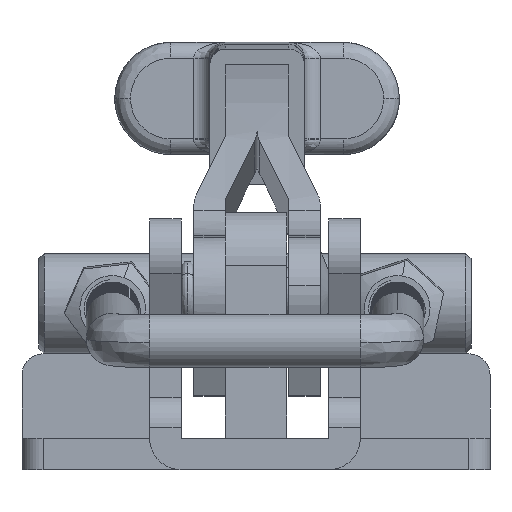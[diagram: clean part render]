
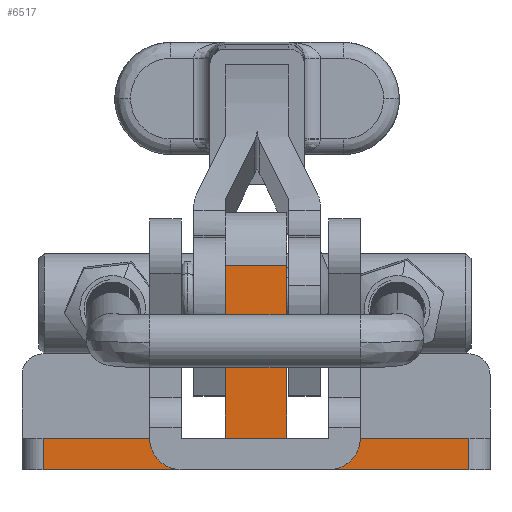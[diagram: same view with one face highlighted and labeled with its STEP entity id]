
A CAD part, left-side view. The second image highlights one B-rep face of the part: STEP entity #6517.
In plain terms, the highlighted planar face has unit normal (-1, 0, 0).
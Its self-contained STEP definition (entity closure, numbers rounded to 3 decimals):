
#94 = CARTESIAN_POINT ( 'NONE',  ( 0., 19.2, 3. ) ) ;
#253 = DIRECTION ( 'NONE',  ( 1., 0., 0. ) ) ;
#267 = VERTEX_POINT ( 'NONE', #3342 ) ;
#714 = CARTESIAN_POINT ( 'NONE',  ( 0., 25.1, 19.4 ) ) ;
#791 = CARTESIAN_POINT ( 'NONE',  ( 0., 2., 3. ) ) ;
#973 = CARTESIAN_POINT ( 'NONE',  ( 0., 42.4, 0. ) ) ;
#985 = DIRECTION ( 'NONE',  ( 0., 0., 1. ) ) ;
#1416 = CARTESIAN_POINT ( 'NONE',  ( 0., 2., 3. ) ) ;
#1474 = LINE ( 'NONE', #2539, #18051 ) ;
#1677 = LINE ( 'NONE', #6816, #21870 ) ;
#1705 = VERTEX_POINT ( 'NONE', #21519 ) ;
#1770 = CIRCLE ( 'NONE', #20628, 3. ) ;
#2526 = ORIENTED_EDGE ( 'NONE', *, *, #15881, .T. ) ;
#2539 = CARTESIAN_POINT ( 'NONE',  ( 0., 2., 19.4 ) ) ;
#2745 = LINE ( 'NONE', #1416, #22307 ) ;
#3236 = DIRECTION ( 'NONE',  ( 0., -1., 0. ) ) ;
#3252 = VERTEX_POINT ( 'NONE', #973 ) ;
#3342 = CARTESIAN_POINT ( 'NONE',  ( 0., 25.1, 3. ) ) ;
#3390 = VECTOR ( 'NONE', #16878, 1000. ) ;
#3449 = DIRECTION ( 'NONE',  ( 0., 0., 1. ) ) ;
#3921 = LINE ( 'NONE', #791, #13086 ) ;
#4072 = PLANE ( 'NONE',  #7028 ) ;
#4345 = ORIENTED_EDGE ( 'NONE', *, *, #9215, .F. ) ;
#4673 = ORIENTED_EDGE ( 'NONE', *, *, #23582, .F. ) ;
#5480 = ORIENTED_EDGE ( 'NONE', *, *, #21416, .F. ) ;
#5764 = ORIENTED_EDGE ( 'NONE', *, *, #10958, .F. ) ;
#6338 = FACE_OUTER_BOUND ( 'NONE', #16927, .T. ) ;
#6451 = DIRECTION ( 'NONE',  ( 0., -1., 0. ) ) ;
#6469 = EDGE_CURVE ( 'NONE', #19874, #15663, #1770, .T. ) ;
#6517 = ADVANCED_FACE ( 'NONE', ( #6338 ), #4072, .F. ) ;
#6816 = CARTESIAN_POINT ( 'NONE',  ( 0., 28., 3. ) ) ;
#6872 = ORIENTED_EDGE ( 'NONE', *, *, #14760, .F. ) ;
#7028 = AXIS2_PLACEMENT_3D ( 'NONE', #9843, #10017, #19697 ) ;
#7161 = EDGE_CURVE ( 'NONE', #22333, #11331, #3921, .T. ) ;
#7281 = CARTESIAN_POINT ( 'NONE',  ( 0., 19.2, 0. ) ) ;
#7449 = CARTESIAN_POINT ( 'NONE',  ( 0., 42.4, 3. ) ) ;
#7548 = CARTESIAN_POINT ( 'NONE',  ( 0., 25.2, 3. ) ) ;
#7638 = CARTESIAN_POINT ( 'NONE',  ( 0., 19.3, 3. ) ) ;
#7730 = LINE ( 'NONE', #11150, #16028 ) ;
#8372 = DIRECTION ( 'NONE',  ( 0., 0., -1. ) ) ;
#8804 = VERTEX_POINT ( 'NONE', #7449 ) ;
#9046 = CARTESIAN_POINT ( 'NONE',  ( 0., 28., 0. ) ) ;
#9181 = ORIENTED_EDGE ( 'NONE', *, *, #6469, .F. ) ;
#9215 = EDGE_CURVE ( 'NONE', #8804, #267, #1677, .T. ) ;
#9594 = DIRECTION ( 'NONE',  ( 0., 0., -1. ) ) ;
#9780 = LINE ( 'NONE', #9046, #3390 ) ;
#9843 = CARTESIAN_POINT ( 'NONE',  ( 0., 2., 3. ) ) ;
#10017 = DIRECTION ( 'NONE',  ( 1., 0., 0. ) ) ;
#10958 = EDGE_CURVE ( 'NONE', #3252, #8804, #7730, .T. ) ;
#11150 = CARTESIAN_POINT ( 'NONE',  ( 0., 42.4, 3. ) ) ;
#11331 = VERTEX_POINT ( 'NONE', #13934 ) ;
#11899 = VECTOR ( 'NONE', #6451, 1000. ) ;
#11945 = CARTESIAN_POINT ( 'NONE',  ( 0., 2., 3. ) ) ;
#11959 = CARTESIAN_POINT ( 'NONE',  ( 0., 19.3, 3. ) ) ;
#12360 = CARTESIAN_POINT ( 'NONE',  ( 0., 16.4, 0. ) ) ;
#12528 = CARTESIAN_POINT ( 'NONE',  ( 0., 25.1, 3. ) ) ;
#12727 = EDGE_CURVE ( 'NONE', #267, #16650, #22698, .T. ) ;
#13086 = VECTOR ( 'NONE', #8372, 1000. ) ;
#13676 = ORIENTED_EDGE ( 'NONE', *, *, #19027, .F. ) ;
#13774 = CARTESIAN_POINT ( 'NONE',  ( 0., 25.2, 0. ) ) ;
#13862 = CARTESIAN_POINT ( 'NONE',  ( 0., 22.2, 3. ) ) ;
#13934 = CARTESIAN_POINT ( 'NONE',  ( 0., 2., 0. ) ) ;
#14487 = EDGE_CURVE ( 'NONE', #3252, #15663, #9780, .T. ) ;
#14645 = VERTEX_POINT ( 'NONE', #11959 ) ;
#14760 = EDGE_CURVE ( 'NONE', #14645, #22333, #2745, .T. ) ;
#15663 = VERTEX_POINT ( 'NONE', #13774 ) ;
#15881 = EDGE_CURVE ( 'NONE', #22778, #11331, #18356, .T. ) ;
#16016 = ORIENTED_EDGE ( 'NONE', *, *, #7161, .F. ) ;
#16028 = VECTOR ( 'NONE', #3449, 1000. ) ;
#16133 = ORIENTED_EDGE ( 'NONE', *, *, #14487, .T. ) ;
#16380 = VECTOR ( 'NONE', #9594, 1000. ) ;
#16422 = DIRECTION ( 'NONE',  ( 0., -1., 0. ) ) ;
#16650 = VERTEX_POINT ( 'NONE', #714 ) ;
#16878 = DIRECTION ( 'NONE',  ( 0., -1., 0. ) ) ;
#16927 = EDGE_LOOP ( 'NONE', ( #4673, #22722, #4345, #5764, #16133, #9181, #5480, #2526, #16016, #6872, #13676 ) ) ;
#18051 = VECTOR ( 'NONE', #16422, 1000. ) ;
#18230 = LINE ( 'NONE', #7638, #16380 ) ;
#18356 = LINE ( 'NONE', #12360, #11899 ) ;
#19027 = EDGE_CURVE ( 'NONE', #1705, #14645, #18230, .T. ) ;
#19057 = DIRECTION ( 'NONE',  ( 0., -1., 0. ) ) ;
#19697 = DIRECTION ( 'NONE',  ( 0., 0., -1. ) ) ;
#19874 = VERTEX_POINT ( 'NONE', #13862 ) ;
#20628 = AXIS2_PLACEMENT_3D ( 'NONE', #7548, #25259, #25345 ) ;
#21416 = EDGE_CURVE ( 'NONE', #22778, #19874, #22883, .T. ) ;
#21519 = CARTESIAN_POINT ( 'NONE',  ( 0., 19.3, 19.4 ) ) ;
#21600 = DIRECTION ( 'NONE',  ( 0., 0., 1. ) ) ;
#21870 = VECTOR ( 'NONE', #3236, 1000. ) ;
#22089 = VECTOR ( 'NONE', #985, 1000. ) ;
#22307 = VECTOR ( 'NONE', #19057, 1000. ) ;
#22333 = VERTEX_POINT ( 'NONE', #11945 ) ;
#22698 = LINE ( 'NONE', #12528, #22089 ) ;
#22722 = ORIENTED_EDGE ( 'NONE', *, *, #12727, .F. ) ;
#22778 = VERTEX_POINT ( 'NONE', #7281 ) ;
#22883 = CIRCLE ( 'NONE', #23690, 3. ) ;
#23582 = EDGE_CURVE ( 'NONE', #16650, #1705, #1474, .T. ) ;
#23690 = AXIS2_PLACEMENT_3D ( 'NONE', #94, #253, #21600 ) ;
#25259 = DIRECTION ( 'NONE',  ( 1., 0., 0. ) ) ;
#25345 = DIRECTION ( 'NONE',  ( 0., 0., 1. ) ) ;
